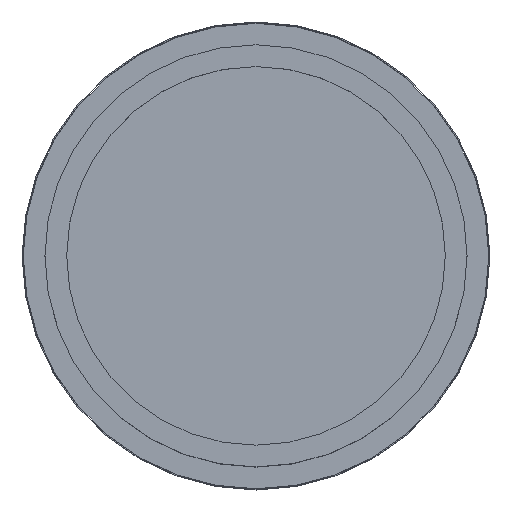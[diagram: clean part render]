
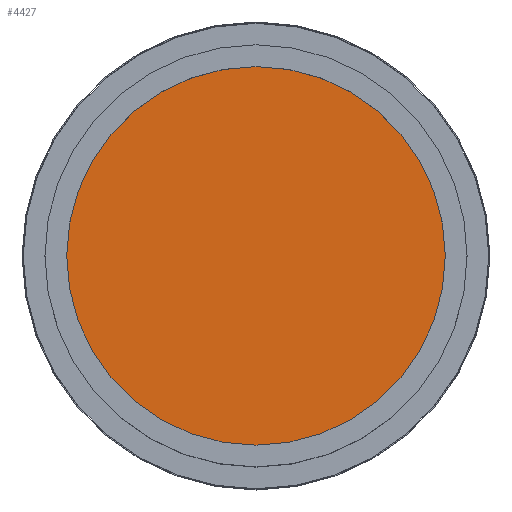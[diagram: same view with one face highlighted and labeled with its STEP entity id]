
A CAD part, top view. The second image highlights one B-rep face of the part: STEP entity #4427.
In plain terms, the highlighted planar face has unit normal (0, 0, 1).
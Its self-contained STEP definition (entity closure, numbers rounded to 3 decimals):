
#296 = VERTEX_POINT ( 'NONE', #1868 ) ;
#602 = EDGE_LOOP ( 'NONE', ( #811, #810 ) ) ;
#810 = ORIENTED_EDGE ( 'NONE', *, *, #3523, .T. ) ;
#811 = ORIENTED_EDGE ( 'NONE', *, *, #3551, .T. ) ;
#1325 = CIRCLE ( 'NONE', #3738, 174. ) ;
#1368 = CIRCLE ( 'NONE', #2675, 174. ) ;
#1868 = CARTESIAN_POINT ( 'NONE',  ( -174., 0., 60. ) ) ;
#1980 = DIRECTION ( 'NONE',  ( 1., 0., 0. ) ) ;
#1981 = DIRECTION ( 'NONE',  ( 0., 0., 1. ) ) ;
#1982 = CARTESIAN_POINT ( 'NONE',  ( 0., 0., 60. ) ) ;
#2430 = DIRECTION ( 'NONE',  ( -1., 0., 0. ) ) ;
#2435 = DIRECTION ( 'NONE',  ( 0., 0., -1. ) ) ;
#2438 = PLANE ( 'NONE',  #3501 ) ;
#2447 = CARTESIAN_POINT ( 'NONE',  ( 0., 0., 60. ) ) ;
#2675 = AXIS2_PLACEMENT_3D ( 'NONE', #2759, #2760, #2763 ) ;
#2759 = CARTESIAN_POINT ( 'NONE',  ( 0., 0., 60. ) ) ;
#2760 = DIRECTION ( 'NONE',  ( 0., 0., 1. ) ) ;
#2763 = DIRECTION ( 'NONE',  ( 1., 0., 0. ) ) ;
#2888 = FACE_OUTER_BOUND ( 'NONE', #602, .T. ) ;
#3501 = AXIS2_PLACEMENT_3D ( 'NONE', #2447, #2435, #2430 ) ;
#3523 = EDGE_CURVE ( 'NONE', #3999, #296, #1325, .T. ) ;
#3551 = EDGE_CURVE ( 'NONE', #296, #3999, #1368, .T. ) ;
#3738 = AXIS2_PLACEMENT_3D ( 'NONE', #1982, #1981, #1980 ) ;
#3999 = VERTEX_POINT ( 'NONE', #4322 ) ;
#4322 = CARTESIAN_POINT ( 'NONE',  ( 174., 0., 60. ) ) ;
#4427 = ADVANCED_FACE ( 'NONE', ( #2888 ), #2438, .F. ) ;
